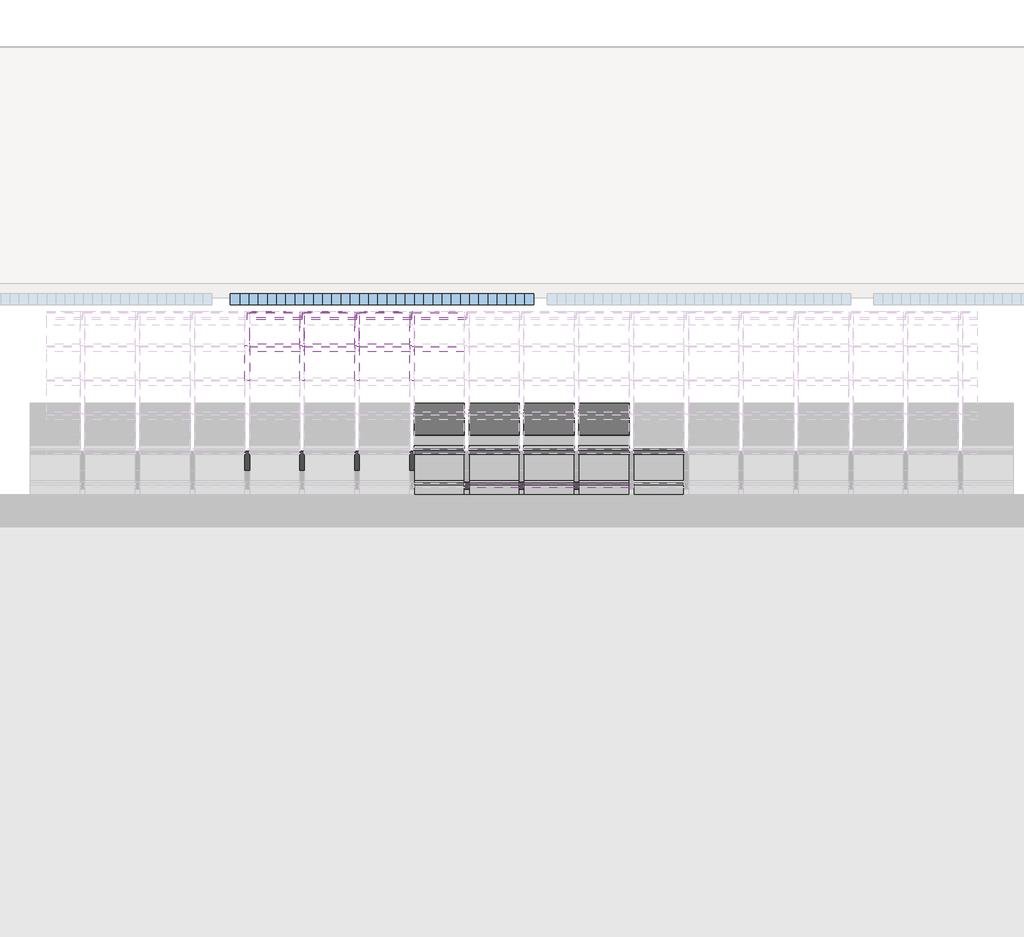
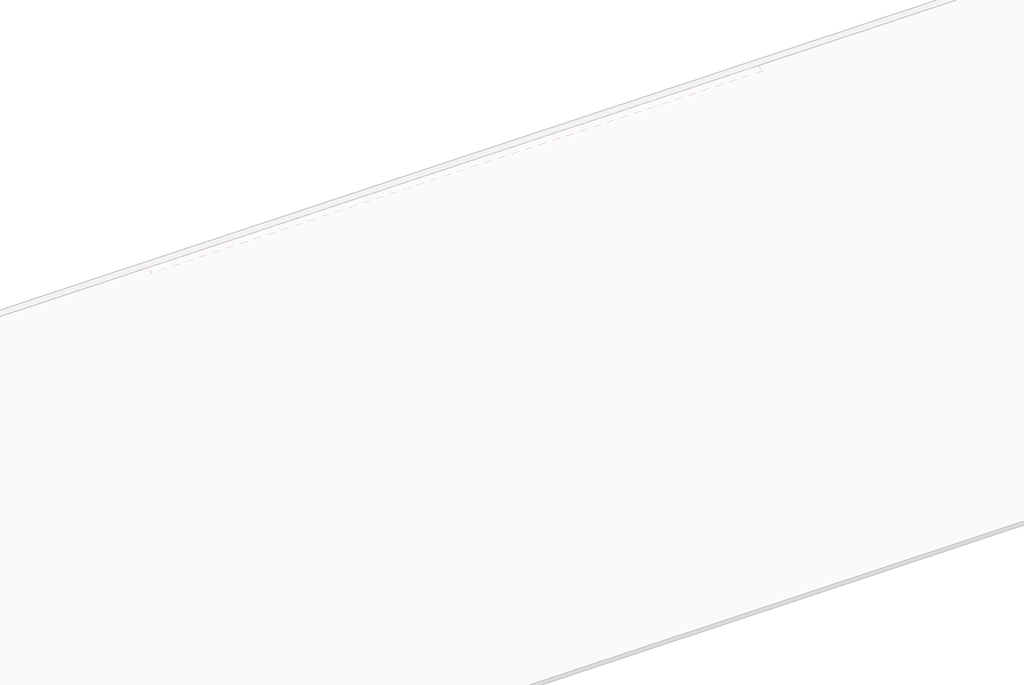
# One storey, part 21 of 57: 82 members, 38 plates, 1 window.
"""IFC4 building model written with IfcOpenShell, lengths in millimetres."""

from ifc_helpers import new_model, si_unit, origin, place, context, project, spatial, transform, mapped, element, save
from components import rectangular_mullion_4c4137b9, rectangular_mullion_59984080, rectangular_mullion_2d2423ea, rectangular_mullion_3ac3718c, rectangular_mullion_caibro_df98490b, rectangular_mullion_caibro_e4384bba, rectangular_mullion_caibro_0993a3cf, rectangular_mullion_caibro_9bd7bc61, rectangular_mullion_caibro_650698a1, empty_system_panel_vazio_178faf58, empty_system_panel_vazio_2c78850d, window_60306791, window_6c828501, window_02d14e1e

model = new_model("IFC4")

# Units and contexts
model_context = context("Model", 3, world=origin())
ifc_project = project(units=[si_unit("LENGTHUNIT", "METRE", prefix="MILLI")], contexts=[model_context])

# Site, building, storey
site = spatial("IfcSite", under=ifc_project)
building = spatial("IfcBuilding", under=site)
storey = spatial("IfcBuildingStorey", under=building, Name="Nível 2", Elevation=4100.0)

# Members
placement = place(None, origin())
rectangular_mullion_shape = rectangular_mullion_4c4137b9(model_context)
element("IfcMember", 1, ObjectType="Rectangular Mullion : Ripa", at=placement, inside=storey, context=model_context, shape_type="MappedRepresentation", body=[
    mapped(rectangular_mullion_shape, transform((10110.4472421, 15566.1284427, 5819.8877114), x_axis=(0.0, 0.9578262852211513, 0.2873478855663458), y_axis=(0.0, 0.2873478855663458, -0.9578262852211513), z_axis=(-1.0, 0.0, 0.0))),
])
element("IfcMember", 2, ObjectType="Rectangular Mullion : Ripa", at=placement, inside=storey, context=model_context, shape_type="MappedRepresentation", body=[
    mapped(rectangular_mullion_shape, transform((10707.5019985, 15566.1284427, 5819.8877114), x_axis=(0.0, 0.9578262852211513, 0.2873478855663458), y_axis=(0.0, 0.2873478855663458, -0.9578262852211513), z_axis=(-1.0, 0.0, 0.0))),
])
element("IfcMember", 3, ObjectType="Rectangular Mullion : Ripa", at=placement, inside=storey, context=model_context, shape_type="MappedRepresentation", body=[
    mapped(rectangular_mullion_shape, transform((11304.556755, 15566.1284427, 5819.8877114), x_axis=(0.0, 0.9578262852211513, 0.2873478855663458), y_axis=(0.0, 0.2873478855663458, -0.9578262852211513), z_axis=(-1.0, 0.0, 0.0))),
])
element("IfcMember", 4, ObjectType="Rectangular Mullion : Ripa", at=placement, inside=storey, context=model_context, shape_type="MappedRepresentation", body=[
    mapped(rectangular_mullion_shape, transform((11901.6115114, 15566.1284427, 5819.8877114), x_axis=(0.0, 0.9578262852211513, 0.2873478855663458), y_axis=(0.0, 0.2873478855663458, -0.9578262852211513), z_axis=(-1.0, 0.0, 0.0))),
])
rectangular_mullion_2_shape = rectangular_mullion_59984080(model_context)
element("IfcMember", 5, ObjectType="Rectangular Mullion : Ripa", at=placement, inside=storey, context=model_context, shape_type="MappedRepresentation", body=[
    mapped(rectangular_mullion_2_shape, transform((12523.6662678, 12234.5331147, 4820.409113), x_axis=(0.0, 0.9578262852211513, 0.2873478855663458), y_axis=(0.0, 0.2873478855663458, -0.9578262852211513), z_axis=(-1.0, 0.0, 0.0))),
])
element("IfcMember", 6, ObjectType="Rectangular Mullion : Ripa", at=placement, inside=storey, context=model_context, shape_type="MappedRepresentation", body=[
    mapped(rectangular_mullion_2_shape, transform((13120.7210242, 12234.5331147, 4820.409113), x_axis=(0.0, 0.9578262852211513, 0.2873478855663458), y_axis=(0.0, 0.2873478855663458, -0.9578262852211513), z_axis=(-1.0, 0.0, 0.0))),
])
element("IfcMember", 7, ObjectType="Rectangular Mullion : Ripa", at=placement, inside=storey, context=model_context, shape_type="MappedRepresentation", body=[
    mapped(rectangular_mullion_2_shape, transform((13717.7757807, 12234.5331147, 4820.409113), x_axis=(0.0, 0.9578262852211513, 0.2873478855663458), y_axis=(0.0, 0.2873478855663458, -0.9578262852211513), z_axis=(-1.0, 0.0, 0.0))),
])
element("IfcMember", 8, ObjectType="Rectangular Mullion : Ripa", at=placement, inside=storey, context=model_context, shape_type="MappedRepresentation", body=[
    mapped(rectangular_mullion_2_shape, transform((14314.8305371, 12234.5331147, 4820.409113), x_axis=(0.0, 0.9578262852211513, 0.2873478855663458), y_axis=(0.0, 0.2873478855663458, -0.9578262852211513), z_axis=(-1.0, 0.0, 0.0))),
])
element("IfcMember", 9, ObjectType="Rectangular Mullion : Ripa", at=placement, inside=storey, context=model_context, shape_type="MappedRepresentation", body=[
    mapped(rectangular_mullion_2_shape, transform((14911.8852935, 12234.5331147, 4820.409113), x_axis=(0.0, 0.9578262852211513, 0.2873478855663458), y_axis=(0.0, 0.2873478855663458, -0.9578262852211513), z_axis=(-1.0, 0.0, 0.0))),
])
element("IfcMember", 10, ObjectType="Rectangular Mullion : Ripa", at=placement, inside=storey, context=model_context, shape_type="MappedRepresentation", body=[
    mapped(rectangular_mullion_2_shape, transform((15508.9400499, 12234.5331147, 4820.409113), x_axis=(0.0, 0.9578262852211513, 0.2873478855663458), y_axis=(0.0, 0.2873478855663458, -0.9578262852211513), z_axis=(-1.0, 0.0, 0.0))),
])
element("IfcMember", 11, ObjectType="Rectangular Mullion : Ripa", at=placement, inside=storey, context=model_context, shape_type="MappedRepresentation", body=[
    mapped(rectangular_mullion_2_shape, transform((12523.6662678, 12604.7103734, 4931.4622906), x_axis=(0.0, 0.9578262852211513, 0.2873478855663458), y_axis=(0.0, 0.2873478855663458, -0.9578262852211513), z_axis=(-1.0, 0.0, 0.0))),
])
element("IfcMember", 12, ObjectType="Rectangular Mullion : Ripa", at=placement, inside=storey, context=model_context, shape_type="MappedRepresentation", body=[
    mapped(rectangular_mullion_2_shape, transform((13120.7210242, 12604.7103734, 4931.4622906), x_axis=(0.0, 0.9578262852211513, 0.2873478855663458), y_axis=(0.0, 0.2873478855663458, -0.9578262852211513), z_axis=(-1.0, 0.0, 0.0))),
])
element("IfcMember", 13, ObjectType="Rectangular Mullion : Ripa", at=placement, inside=storey, context=model_context, shape_type="MappedRepresentation", body=[
    mapped(rectangular_mullion_2_shape, transform((13717.7757807, 12604.7103734, 4931.4622906), x_axis=(0.0, 0.9578262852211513, 0.2873478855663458), y_axis=(0.0, 0.2873478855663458, -0.9578262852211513), z_axis=(-1.0, 0.0, 0.0))),
])
element("IfcMember", 14, ObjectType="Rectangular Mullion : Ripa", at=placement, inside=storey, context=model_context, shape_type="MappedRepresentation", body=[
    mapped(rectangular_mullion_2_shape, transform((14314.8305371, 12604.7103734, 4931.4622906), x_axis=(0.0, 0.9578262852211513, 0.2873478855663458), y_axis=(0.0, 0.2873478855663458, -0.9578262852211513), z_axis=(-1.0, 0.0, 0.0))),
])
element("IfcMember", 15, ObjectType="Rectangular Mullion : Ripa", at=placement, inside=storey, context=model_context, shape_type="MappedRepresentation", body=[
    mapped(rectangular_mullion_2_shape, transform((14911.8852935, 12604.7103734, 4931.4622906), x_axis=(0.0, 0.9578262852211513, 0.2873478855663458), y_axis=(0.0, 0.2873478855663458, -0.9578262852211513), z_axis=(-1.0, 0.0, 0.0))),
])
element("IfcMember", 16, ObjectType="Rectangular Mullion : Ripa", at=placement, inside=storey, context=model_context, shape_type="MappedRepresentation", body=[
    mapped(rectangular_mullion_2_shape, transform((15508.9400499, 12604.7103734, 4931.4622906), x_axis=(0.0, 0.9578262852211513, 0.2873478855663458), y_axis=(0.0, 0.2873478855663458, -0.9578262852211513), z_axis=(-1.0, 0.0, 0.0))),
])
element("IfcMember", 17, ObjectType="Rectangular Mullion : Ripa", at=placement, inside=storey, context=model_context, shape_type="MappedRepresentation", body=[
    mapped(rectangular_mullion_2_shape, transform((12523.6662678, 12974.8876321, 5042.5154682), x_axis=(0.0, 0.9578262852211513, 0.2873478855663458), y_axis=(0.0, 0.2873478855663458, -0.9578262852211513), z_axis=(-1.0, 0.0, 0.0))),
])
element("IfcMember", 18, ObjectType="Rectangular Mullion : Ripa", at=placement, inside=storey, context=model_context, shape_type="MappedRepresentation", body=[
    mapped(rectangular_mullion_2_shape, transform((13120.7210242, 12974.8876321, 5042.5154682), x_axis=(0.0, 0.9578262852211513, 0.2873478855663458), y_axis=(0.0, 0.2873478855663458, -0.9578262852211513), z_axis=(-1.0, 0.0, 0.0))),
])
element("IfcMember", 19, ObjectType="Rectangular Mullion : Ripa", at=placement, inside=storey, context=model_context, shape_type="MappedRepresentation", body=[
    mapped(rectangular_mullion_2_shape, transform((13717.7757807, 12974.8876321, 5042.5154682), x_axis=(0.0, 0.9578262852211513, 0.2873478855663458), y_axis=(0.0, 0.2873478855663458, -0.9578262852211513), z_axis=(-1.0, 0.0, 0.0))),
])
element("IfcMember", 20, ObjectType="Rectangular Mullion : Ripa", at=placement, inside=storey, context=model_context, shape_type="MappedRepresentation", body=[
    mapped(rectangular_mullion_2_shape, transform((14314.8305371, 12974.8876321, 5042.5154682), x_axis=(0.0, 0.9578262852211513, 0.2873478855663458), y_axis=(0.0, 0.2873478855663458, -0.9578262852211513), z_axis=(-1.0, 0.0, 0.0))),
])
element("IfcMember", 21, ObjectType="Rectangular Mullion : Ripa", at=placement, inside=storey, context=model_context, shape_type="MappedRepresentation", body=[
    mapped(rectangular_mullion_2_shape, transform((14911.8852935, 12974.8876321, 5042.5154682), x_axis=(0.0, 0.9578262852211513, 0.2873478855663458), y_axis=(0.0, 0.2873478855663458, -0.9578262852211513), z_axis=(-1.0, 0.0, 0.0))),
])
element("IfcMember", 22, ObjectType="Rectangular Mullion : Ripa", at=placement, inside=storey, context=model_context, shape_type="MappedRepresentation", body=[
    mapped(rectangular_mullion_2_shape, transform((15508.9400499, 12974.8876321, 5042.5154682), x_axis=(0.0, 0.9578262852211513, 0.2873478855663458), y_axis=(0.0, 0.2873478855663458, -0.9578262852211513), z_axis=(-1.0, 0.0, 0.0))),
])
element("IfcMember", 23, ObjectType="Rectangular Mullion : Ripa", at=placement, inside=storey, context=model_context, shape_type="MappedRepresentation", body=[
    mapped(rectangular_mullion_2_shape, transform((12523.6662678, 13345.0648907, 5153.5686458), x_axis=(0.0, 0.9578262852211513, 0.2873478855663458), y_axis=(0.0, 0.2873478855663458, -0.9578262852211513), z_axis=(-1.0, 0.0, 0.0))),
])
element("IfcMember", 24, ObjectType="Rectangular Mullion : Ripa", at=placement, inside=storey, context=model_context, shape_type="MappedRepresentation", body=[
    mapped(rectangular_mullion_2_shape, transform((13120.7210242, 13345.0648907, 5153.5686458), x_axis=(0.0, 0.9578262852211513, 0.2873478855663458), y_axis=(0.0, 0.2873478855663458, -0.9578262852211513), z_axis=(-1.0, 0.0, 0.0))),
])
element("IfcMember", 25, ObjectType="Rectangular Mullion : Ripa", at=placement, inside=storey, context=model_context, shape_type="MappedRepresentation", body=[
    mapped(rectangular_mullion_2_shape, transform((13717.7757807, 13345.0648907, 5153.5686458), x_axis=(0.0, 0.9578262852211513, 0.2873478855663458), y_axis=(0.0, 0.2873478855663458, -0.9578262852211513), z_axis=(-1.0, 0.0, 0.0))),
])
element("IfcMember", 26, ObjectType="Rectangular Mullion : Ripa", at=placement, inside=storey, context=model_context, shape_type="MappedRepresentation", body=[
    mapped(rectangular_mullion_2_shape, transform((12523.6662678, 13715.2421494, 5264.6218234), x_axis=(0.0, 0.9578262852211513, 0.2873478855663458), y_axis=(0.0, 0.2873478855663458, -0.9578262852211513), z_axis=(-1.0, 0.0, 0.0))),
])
element("IfcMember", 27, ObjectType="Rectangular Mullion : Ripa", at=placement, inside=storey, context=model_context, shape_type="MappedRepresentation", body=[
    mapped(rectangular_mullion_2_shape, transform((13120.7210242, 13715.2421494, 5264.6218234), x_axis=(0.0, 0.9578262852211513, 0.2873478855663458), y_axis=(0.0, 0.2873478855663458, -0.9578262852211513), z_axis=(-1.0, 0.0, 0.0))),
])
element("IfcMember", 28, ObjectType="Rectangular Mullion : Ripa", at=placement, inside=storey, context=model_context, shape_type="MappedRepresentation", body=[
    mapped(rectangular_mullion_2_shape, transform((13717.7757807, 13715.2421494, 5264.6218234), x_axis=(0.0, 0.9578262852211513, 0.2873478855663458), y_axis=(0.0, 0.2873478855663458, -0.9578262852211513), z_axis=(-1.0, 0.0, 0.0))),
])
element("IfcMember", 29, ObjectType="Rectangular Mullion : Ripa", at=placement, inside=storey, context=model_context, shape_type="MappedRepresentation", body=[
    mapped(rectangular_mullion_2_shape, transform((10135.4472421, 15195.9511841, 5708.8345338), x_axis=(0.0, 0.9578262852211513, 0.2873478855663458), y_axis=(0.0, 0.2873478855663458, -0.9578262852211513), z_axis=(-1.0, 0.0, 0.0))),
])
element("IfcMember", 30, ObjectType="Rectangular Mullion : Ripa", at=placement, inside=storey, context=model_context, shape_type="MappedRepresentation", body=[
    mapped(rectangular_mullion_2_shape, transform((10732.5019985, 15195.9511841, 5708.8345338), x_axis=(0.0, 0.9578262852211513, 0.2873478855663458), y_axis=(0.0, 0.2873478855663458, -0.9578262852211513), z_axis=(-1.0, 0.0, 0.0))),
])
element("IfcMember", 31, ObjectType="Rectangular Mullion : Ripa", at=placement, inside=storey, context=model_context, shape_type="MappedRepresentation", body=[
    mapped(rectangular_mullion_2_shape, transform((11329.556755, 15195.9511841, 5708.8345338), x_axis=(0.0, 0.9578262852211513, 0.2873478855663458), y_axis=(0.0, 0.2873478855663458, -0.9578262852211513), z_axis=(-1.0, 0.0, 0.0))),
])
element("IfcMember", 32, ObjectType="Rectangular Mullion : Ripa", at=placement, inside=storey, context=model_context, shape_type="MappedRepresentation", body=[
    mapped(rectangular_mullion_2_shape, transform((11926.6115114, 15195.9511841, 5708.8345338), x_axis=(0.0, 0.9578262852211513, 0.2873478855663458), y_axis=(0.0, 0.2873478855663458, -0.9578262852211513), z_axis=(-1.0, 0.0, 0.0))),
])
rectangular_mullion_3_shape = rectangular_mullion_2d2423ea(model_context)
element("IfcMember", 33, ObjectType="Rectangular Mullion : Terça", at=placement, inside=storey, context=model_context, shape_type="MappedRepresentation", body=[
    mapped(rectangular_mullion_3_shape, transform((12523.6662678, 13411.2689826, 5110.7880343), x_axis=(0.0, 0.9578262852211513, 0.2873478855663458), y_axis=(0.0, 0.2873478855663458, -0.9578262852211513), z_axis=(-1.0, 0.0, 0.0))),
])
element("IfcMember", 34, ObjectType="Rectangular Mullion : Terça", at=placement, inside=storey, context=model_context, shape_type="MappedRepresentation", body=[
    mapped(rectangular_mullion_3_shape, transform((13120.7210242, 13411.2689826, 5110.7880343), x_axis=(0.0, 0.9578262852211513, 0.2873478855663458), y_axis=(0.0, 0.2873478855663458, -0.9578262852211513), z_axis=(-1.0, 0.0, 0.0))),
])
element("IfcMember", 35, ObjectType="Rectangular Mullion : Terça", at=placement, inside=storey, context=model_context, shape_type="MappedRepresentation", body=[
    mapped(rectangular_mullion_3_shape, transform((13717.7757807, 13411.2689826, 5110.7880343), x_axis=(0.0, 0.9578262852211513, 0.2873478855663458), y_axis=(0.0, 0.2873478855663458, -0.9578262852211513), z_axis=(-1.0, 0.0, 0.0))),
])
rectangular_mullion_4_shape = rectangular_mullion_3ac3718c(model_context)
element("IfcMember", 36, ObjectType="Rectangular Mullion : Terça", at=placement, inside=storey, context=model_context, shape_type="MappedRepresentation", body=[
    mapped(rectangular_mullion_4_shape, transform((10110.4472421, 15566.1284427, 5757.2458723), x_axis=(0.0, 0.9578262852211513, 0.2873478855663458), y_axis=(0.0, 0.2873478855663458, -0.9578262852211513), z_axis=(-1.0, 0.0, 0.0))),
])
element("IfcMember", 37, ObjectType="Rectangular Mullion : Terça", at=placement, inside=storey, context=model_context, shape_type="MappedRepresentation", body=[
    mapped(rectangular_mullion_4_shape, transform((10707.5019985, 15566.1284427, 5757.2458723), x_axis=(0.0, 0.9578262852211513, 0.2873478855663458), y_axis=(0.0, 0.2873478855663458, -0.9578262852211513), z_axis=(-1.0, 0.0, 0.0))),
])
element("IfcMember", 38, ObjectType="Rectangular Mullion : Terça", at=placement, inside=storey, context=model_context, shape_type="MappedRepresentation", body=[
    mapped(rectangular_mullion_4_shape, transform((11304.556755, 15566.1284427, 5757.2458723), x_axis=(0.0, 0.9578262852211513, 0.2873478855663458), y_axis=(0.0, 0.2873478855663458, -0.9578262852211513), z_axis=(-1.0, 0.0, 0.0))),
])
element("IfcMember", 39, ObjectType="Rectangular Mullion : Terça", at=placement, inside=storey, context=model_context, shape_type="MappedRepresentation", body=[
    mapped(rectangular_mullion_4_shape, transform((11901.6115114, 15566.1284427, 5757.2458723), x_axis=(0.0, 0.9578262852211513, 0.2873478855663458), y_axis=(0.0, 0.2873478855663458, -0.9578262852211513), z_axis=(-1.0, 0.0, 0.0))),
])
rectangular_mullion_caibro_shape = rectangular_mullion_caibro_df98490b(model_context)
element("IfcMember", 40, ObjectType="Rectangular Mullion : Caibro", at=placement, inside=storey, context=model_context, shape_type="MappedRepresentation", body=[
    mapped(rectangular_mullion_caibro_shape, transform((10707.5019985, 15518.2371285, 5805.5203171), x_axis=(1.0, 0.0, 0.0), y_axis=(0.0, 0.28734788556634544, -0.9578262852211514), z_axis=(0.0, 0.9578262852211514, 0.28734788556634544))),
])
element("IfcMember", 41, ObjectType="Rectangular Mullion : Caibro", at=placement, inside=storey, context=model_context, shape_type="MappedRepresentation", body=[
    mapped(rectangular_mullion_caibro_shape, transform((11304.556755, 15518.2371285, 5805.5203171), x_axis=(1.0, 0.0, 0.0), y_axis=(0.0, 0.28734788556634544, -0.9578262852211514), z_axis=(0.0, 0.9578262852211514, 0.28734788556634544))),
])
element("IfcMember", 42, ObjectType="Rectangular Mullion : Caibro", at=placement, inside=storey, context=model_context, shape_type="MappedRepresentation", body=[
    mapped(rectangular_mullion_caibro_shape, transform((11901.6115114, 15518.2371285, 5805.5203171), x_axis=(1.0, 0.0, 0.0), y_axis=(0.0, 0.28734788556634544, -0.9578262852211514), z_axis=(0.0, 0.9578262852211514, 0.28734788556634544))),
])
rectangular_mullion_caibro_2_shape = rectangular_mullion_caibro_e4384bba(model_context)
element("IfcMember", 43, ObjectType="Rectangular Mullion : Caibro", at=placement, inside=storey, context=model_context, shape_type="MappedRepresentation", body=[
    mapped(rectangular_mullion_caibro_2_shape, transform((10110.4472421, 15195.9511841, 5708.8345338), x_axis=(1.0, 0.0, 0.0), y_axis=(0.0, 0.28734788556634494, -0.9578262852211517), z_axis=(0.0, 0.9578262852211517, 0.28734788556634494))),
])
element("IfcMember", 44, ObjectType="Rectangular Mullion : Caibro", at=placement, inside=storey, context=model_context, shape_type="MappedRepresentation", body=[
    mapped(rectangular_mullion_caibro_2_shape, transform((10707.5019985, 15195.9511841, 5708.8345338), x_axis=(1.0, 0.0, 0.0), y_axis=(0.0, 0.28734788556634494, -0.9578262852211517), z_axis=(0.0, 0.9578262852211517, 0.28734788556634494))),
])
element("IfcMember", 45, ObjectType="Rectangular Mullion : Caibro", at=placement, inside=storey, context=model_context, shape_type="MappedRepresentation", body=[
    mapped(rectangular_mullion_caibro_2_shape, transform((11304.556755, 15195.9511841, 5708.8345338), x_axis=(1.0, 0.0, 0.0), y_axis=(0.0, 0.28734788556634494, -0.9578262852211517), z_axis=(0.0, 0.9578262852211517, 0.28734788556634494))),
])
element("IfcMember", 46, ObjectType="Rectangular Mullion : Caibro", at=placement, inside=storey, context=model_context, shape_type="MappedRepresentation", body=[
    mapped(rectangular_mullion_caibro_2_shape, transform((11901.6115114, 15195.9511841, 5708.8345338), x_axis=(1.0, 0.0, 0.0), y_axis=(0.0, 0.28734788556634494, -0.9578262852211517), z_axis=(0.0, 0.9578262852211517, 0.28734788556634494))),
])
element("IfcMember", 47, ObjectType="Rectangular Mullion : Caibro", at=placement, inside=storey, context=model_context, shape_type="MappedRepresentation", body=[
    mapped(rectangular_mullion_caibro_2_shape, transform((12498.6662678, 12234.5331147, 4820.409113), x_axis=(1.0, 0.0, 0.0), y_axis=(0.0, 0.2873478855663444, -0.9578262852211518), z_axis=(0.0, 0.9578262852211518, 0.2873478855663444))),
])
element("IfcMember", 48, ObjectType="Rectangular Mullion : Caibro", at=placement, inside=storey, context=model_context, shape_type="MappedRepresentation", body=[
    mapped(rectangular_mullion_caibro_2_shape, transform((12498.6662678, 12604.7103734, 4931.4622906), x_axis=(1.0, 0.0, 0.0), y_axis=(0.0, 0.2873478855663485, -0.9578262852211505), z_axis=(0.0, 0.9578262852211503, 0.28734788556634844))),
])
element("IfcMember", 49, ObjectType="Rectangular Mullion : Caibro", at=placement, inside=storey, context=model_context, shape_type="MappedRepresentation", body=[
    mapped(rectangular_mullion_caibro_2_shape, transform((12498.6662678, 12974.8876321, 5042.5154682), x_axis=(1.0, 0.0, 0.0), y_axis=(0.0, 0.2873478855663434, -0.957826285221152), z_axis=(0.0, 0.957826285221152, 0.2873478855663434))),
])
element("IfcMember", 50, ObjectType="Rectangular Mullion : Caibro", at=placement, inside=storey, context=model_context, shape_type="MappedRepresentation", body=[
    mapped(rectangular_mullion_caibro_2_shape, transform((12498.6662678, 13345.0648907, 5153.5686458), x_axis=(1.0, 0.0, 0.0), y_axis=(0.0, 0.28734788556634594, -0.9578262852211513), z_axis=(0.0, 0.9578262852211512, 0.2873478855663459))),
])
element("IfcMember", 51, ObjectType="Rectangular Mullion : Caibro", at=placement, inside=storey, context=model_context, shape_type="MappedRepresentation", body=[
    mapped(rectangular_mullion_caibro_2_shape, transform((12498.6662678, 13715.2421494, 5264.6218234), x_axis=(1.0, 0.0, 0.0), y_axis=(0.0, 0.28734788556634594, -0.9578262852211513), z_axis=(0.0, 0.9578262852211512, 0.2873478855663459))),
])
element("IfcMember", 52, ObjectType="Rectangular Mullion : Caibro", at=placement, inside=storey, context=model_context, shape_type="MappedRepresentation", body=[
    mapped(rectangular_mullion_caibro_2_shape, transform((13095.7210242, 12234.5331147, 4820.409113), x_axis=(1.0, 0.0, 0.0), y_axis=(0.0, 0.2873478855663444, -0.9578262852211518), z_axis=(0.0, 0.9578262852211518, 0.2873478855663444))),
])
element("IfcMember", 53, ObjectType="Rectangular Mullion : Caibro", at=placement, inside=storey, context=model_context, shape_type="MappedRepresentation", body=[
    mapped(rectangular_mullion_caibro_2_shape, transform((13095.7210242, 12604.7103734, 4931.4622906), x_axis=(1.0, 0.0, 0.0), y_axis=(0.0, 0.2873478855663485, -0.9578262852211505), z_axis=(0.0, 0.9578262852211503, 0.28734788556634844))),
])
element("IfcMember", 54, ObjectType="Rectangular Mullion : Caibro", at=placement, inside=storey, context=model_context, shape_type="MappedRepresentation", body=[
    mapped(rectangular_mullion_caibro_2_shape, transform((13095.7210242, 12974.8876321, 5042.5154682), x_axis=(1.0, 0.0, 0.0), y_axis=(0.0, 0.2873478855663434, -0.957826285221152), z_axis=(0.0, 0.957826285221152, 0.2873478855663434))),
])
element("IfcMember", 55, ObjectType="Rectangular Mullion : Caibro", at=placement, inside=storey, context=model_context, shape_type="MappedRepresentation", body=[
    mapped(rectangular_mullion_caibro_2_shape, transform((13095.7210242, 13345.0648907, 5153.5686458), x_axis=(1.0, 0.0, 0.0), y_axis=(0.0, 0.28734788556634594, -0.9578262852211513), z_axis=(0.0, 0.9578262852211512, 0.2873478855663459))),
])
element("IfcMember", 56, ObjectType="Rectangular Mullion : Caibro", at=placement, inside=storey, context=model_context, shape_type="MappedRepresentation", body=[
    mapped(rectangular_mullion_caibro_2_shape, transform((13095.7210242, 13715.2421494, 5264.6218234), x_axis=(1.0, 0.0, 0.0), y_axis=(0.0, 0.28734788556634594, -0.9578262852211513), z_axis=(0.0, 0.9578262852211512, 0.2873478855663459))),
])
element("IfcMember", 57, ObjectType="Rectangular Mullion : Caibro", at=placement, inside=storey, context=model_context, shape_type="MappedRepresentation", body=[
    mapped(rectangular_mullion_caibro_2_shape, transform((13692.7757807, 12234.5331147, 4820.409113), x_axis=(1.0, 0.0, 0.0), y_axis=(0.0, 0.2873478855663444, -0.9578262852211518), z_axis=(0.0, 0.9578262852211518, 0.2873478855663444))),
])
element("IfcMember", 58, ObjectType="Rectangular Mullion : Caibro", at=placement, inside=storey, context=model_context, shape_type="MappedRepresentation", body=[
    mapped(rectangular_mullion_caibro_2_shape, transform((13692.7757807, 12604.7103734, 4931.4622906), x_axis=(1.0, 0.0, 0.0), y_axis=(0.0, 0.2873478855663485, -0.9578262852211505), z_axis=(0.0, 0.9578262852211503, 0.28734788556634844))),
])
element("IfcMember", 59, ObjectType="Rectangular Mullion : Caibro", at=placement, inside=storey, context=model_context, shape_type="MappedRepresentation", body=[
    mapped(rectangular_mullion_caibro_2_shape, transform((13692.7757807, 12974.8876321, 5042.5154682), x_axis=(1.0, 0.0, 0.0), y_axis=(0.0, 0.2873478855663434, -0.957826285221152), z_axis=(0.0, 0.957826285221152, 0.2873478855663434))),
])
element("IfcMember", 60, ObjectType="Rectangular Mullion : Caibro", at=placement, inside=storey, context=model_context, shape_type="MappedRepresentation", body=[
    mapped(rectangular_mullion_caibro_2_shape, transform((13692.7757807, 13345.0648907, 5153.5686458), x_axis=(1.0, 0.0, 0.0), y_axis=(0.0, 0.28734788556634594, -0.9578262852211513), z_axis=(0.0, 0.9578262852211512, 0.2873478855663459))),
])
element("IfcMember", 61, ObjectType="Rectangular Mullion : Caibro", at=placement, inside=storey, context=model_context, shape_type="MappedRepresentation", body=[
    mapped(rectangular_mullion_caibro_2_shape, transform((13692.7757807, 13715.2421494, 5264.6218234), x_axis=(1.0, 0.0, 0.0), y_axis=(0.0, 0.28734788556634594, -0.9578262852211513), z_axis=(0.0, 0.9578262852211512, 0.2873478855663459))),
])
element("IfcMember", 62, ObjectType="Rectangular Mullion : Caibro", at=placement, inside=storey, context=model_context, shape_type="MappedRepresentation", body=[
    mapped(rectangular_mullion_caibro_2_shape, transform((14289.8305371, 12234.5331147, 4820.409113), x_axis=(1.0, 0.0, 0.0), y_axis=(0.0, 0.2873478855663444, -0.9578262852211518), z_axis=(0.0, 0.9578262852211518, 0.2873478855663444))),
])
element("IfcMember", 63, ObjectType="Rectangular Mullion : Caibro", at=placement, inside=storey, context=model_context, shape_type="MappedRepresentation", body=[
    mapped(rectangular_mullion_caibro_2_shape, transform((14289.8305371, 12604.7103734, 4931.4622906), x_axis=(1.0, 0.0, 0.0), y_axis=(0.0, 0.2873478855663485, -0.9578262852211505), z_axis=(0.0, 0.9578262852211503, 0.28734788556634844))),
])
element("IfcMember", 64, ObjectType="Rectangular Mullion : Caibro", at=placement, inside=storey, context=model_context, shape_type="MappedRepresentation", body=[
    mapped(rectangular_mullion_caibro_2_shape, transform((14289.8305371, 12974.8876321, 5042.5154682), x_axis=(1.0, 0.0, 0.0), y_axis=(0.0, 0.2873478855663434, -0.957826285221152), z_axis=(0.0, 0.957826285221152, 0.2873478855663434))),
])
element("IfcMember", 65, ObjectType="Rectangular Mullion : Caibro", at=placement, inside=storey, context=model_context, shape_type="MappedRepresentation", body=[
    mapped(rectangular_mullion_caibro_2_shape, transform((14289.8305371, 13345.0648907, 5153.5686458), x_axis=(1.0, 0.0, 0.0), y_axis=(0.0, 0.28734788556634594, -0.9578262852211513), z_axis=(0.0, 0.9578262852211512, 0.2873478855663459))),
])
element("IfcMember", 66, ObjectType="Rectangular Mullion : Caibro", at=placement, inside=storey, context=model_context, shape_type="MappedRepresentation", body=[
    mapped(rectangular_mullion_caibro_2_shape, transform((14886.8852935, 12234.5331147, 4820.409113), x_axis=(1.0, 0.0, 0.0), y_axis=(0.0, 0.2873478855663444, -0.9578262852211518), z_axis=(0.0, 0.9578262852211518, 0.2873478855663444))),
])
element("IfcMember", 67, ObjectType="Rectangular Mullion : Caibro", at=placement, inside=storey, context=model_context, shape_type="MappedRepresentation", body=[
    mapped(rectangular_mullion_caibro_2_shape, transform((14886.8852935, 12604.7103734, 4931.4622906), x_axis=(1.0, 0.0, 0.0), y_axis=(0.0, 0.2873478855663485, -0.9578262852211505), z_axis=(0.0, 0.9578262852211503, 0.28734788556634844))),
])
element("IfcMember", 68, ObjectType="Rectangular Mullion : Caibro", at=placement, inside=storey, context=model_context, shape_type="MappedRepresentation", body=[
    mapped(rectangular_mullion_caibro_2_shape, transform((14886.8852935, 12974.8876321, 5042.5154682), x_axis=(1.0, 0.0, 0.0), y_axis=(0.0, 0.2873478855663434, -0.957826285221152), z_axis=(0.0, 0.957826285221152, 0.2873478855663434))),
])
element("IfcMember", 69, ObjectType="Rectangular Mullion : Caibro", at=placement, inside=storey, context=model_context, shape_type="MappedRepresentation", body=[
    mapped(rectangular_mullion_caibro_2_shape, transform((15483.9400499, 12234.5331147, 4820.409113), x_axis=(1.0, 0.0, 0.0), y_axis=(0.0, 0.2873478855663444, -0.9578262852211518), z_axis=(0.0, 0.9578262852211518, 0.2873478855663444))),
])
element("IfcMember", 70, ObjectType="Rectangular Mullion : Caibro", at=placement, inside=storey, context=model_context, shape_type="MappedRepresentation", body=[
    mapped(rectangular_mullion_caibro_2_shape, transform((15483.9400499, 12604.7103734, 4931.4622906), x_axis=(1.0, 0.0, 0.0), y_axis=(0.0, 0.2873478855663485, -0.9578262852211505), z_axis=(0.0, 0.9578262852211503, 0.28734788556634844))),
])
element("IfcMember", 71, ObjectType="Rectangular Mullion : Caibro", at=placement, inside=storey, context=model_context, shape_type="MappedRepresentation", body=[
    mapped(rectangular_mullion_caibro_2_shape, transform((15483.9400499, 12974.8876321, 5042.5154682), x_axis=(1.0, 0.0, 0.0), y_axis=(0.0, 0.2873478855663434, -0.957826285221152), z_axis=(0.0, 0.957826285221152, 0.2873478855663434))),
])
rectangular_mullion_caibro_3_shape = rectangular_mullion_caibro_0993a3cf(model_context)
element("IfcMember", 72, ObjectType="Rectangular Mullion : Caibro", at=placement, inside=storey, context=model_context, shape_type="MappedRepresentation", body=[
    mapped(rectangular_mullion_caibro_3_shape, transform((10110.4472421, 15508.6588656, 5740.0049992), x_axis=(1.0, 0.0, 0.0), y_axis=(0.0, 0.28734788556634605, -0.9578262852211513), z_axis=(0.0, 0.9578262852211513, 0.28734788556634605))),
])
element("IfcMember", 73, ObjectType="Rectangular Mullion : Caibro", at=placement, inside=storey, context=model_context, shape_type="MappedRepresentation", body=[
    mapped(rectangular_mullion_caibro_3_shape, transform((10707.5019985, 15508.6588656, 5740.0049992), x_axis=(1.0, 0.0, 0.0), y_axis=(0.0, 0.28734788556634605, -0.9578262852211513), z_axis=(0.0, 0.9578262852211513, 0.28734788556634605))),
])
element("IfcMember", 74, ObjectType="Rectangular Mullion : Caibro", at=placement, inside=storey, context=model_context, shape_type="MappedRepresentation", body=[
    mapped(rectangular_mullion_caibro_3_shape, transform((11304.556755, 15508.6588656, 5740.0049992), x_axis=(1.0, 0.0, 0.0), y_axis=(0.0, 0.28734788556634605, -0.9578262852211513), z_axis=(0.0, 0.9578262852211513, 0.28734788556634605))),
])
element("IfcMember", 75, ObjectType="Rectangular Mullion : Caibro", at=placement, inside=storey, context=model_context, shape_type="MappedRepresentation", body=[
    mapped(rectangular_mullion_caibro_3_shape, transform((11901.6115114, 15508.6588656, 5740.0049992), x_axis=(1.0, 0.0, 0.0), y_axis=(0.0, 0.28734788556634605, -0.9578262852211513), z_axis=(0.0, 0.9578262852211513, 0.28734788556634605))),
])
rectangular_mullion_caibro_4_shape = rectangular_mullion_caibro_9bd7bc61(model_context)
element("IfcMember", 76, ObjectType="Rectangular Mullion : Caibro", at=placement, inside=storey, context=model_context, shape_type="MappedRepresentation", body=[
    mapped(rectangular_mullion_caibro_4_shape, transform((12498.6662678, 13411.2689826, 5110.7880343), x_axis=(1.0, 0.0, 0.0), y_axis=(0.0, 0.2873478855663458, -0.9578262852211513), z_axis=(0.0, 0.9578262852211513, 0.2873478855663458))),
])
element("IfcMember", 77, ObjectType="Rectangular Mullion : Caibro", at=placement, inside=storey, context=model_context, shape_type="MappedRepresentation", body=[
    mapped(rectangular_mullion_caibro_4_shape, transform((13095.7210242, 13411.2689826, 5110.7880343), x_axis=(1.0, 0.0, 0.0), y_axis=(0.0, 0.2873478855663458, -0.9578262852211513), z_axis=(0.0, 0.9578262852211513, 0.2873478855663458))),
])
element("IfcMember", 78, ObjectType="Rectangular Mullion : Caibro", at=placement, inside=storey, context=model_context, shape_type="MappedRepresentation", body=[
    mapped(rectangular_mullion_caibro_4_shape, transform((13692.7757807, 13411.2689826, 5110.7880343), x_axis=(1.0, 0.0, 0.0), y_axis=(0.0, 0.2873478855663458, -0.9578262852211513), z_axis=(0.0, 0.9578262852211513, 0.2873478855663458))),
])
rectangular_mullion_caibro_5_shape = rectangular_mullion_caibro_650698a1(model_context)
element("IfcMember", 79, ObjectType="Rectangular Mullion : Caibro", at=placement, inside=storey, context=model_context, shape_type="MappedRepresentation", body=[
    mapped(rectangular_mullion_caibro_5_shape, transform((11886.7560778, 15772.0058221, 4410.7541277), x_axis=(-1.0, 0.0, 0.0), y_axis=(0.0, -0.28734788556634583, -0.9578262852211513), z_axis=(0.0, -0.9578262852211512, 0.2873478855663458))),
])
element("IfcMember", 80, ObjectType="Rectangular Mullion : Caibro", at=placement, inside=storey, context=model_context, shape_type="MappedRepresentation", body=[
    mapped(rectangular_mullion_caibro_5_shape, transform((11289.4075761, 15772.0058221, 4410.7541277), x_axis=(-1.0, 0.0, 0.0), y_axis=(0.0, -0.2873478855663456, -0.9578262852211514), z_axis=(0.0, -0.9578262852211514, 0.2873478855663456))),
])
element("IfcMember", 81, ObjectType="Rectangular Mullion : Caibro", at=placement, inside=storey, context=model_context, shape_type="MappedRepresentation", body=[
    mapped(rectangular_mullion_caibro_5_shape, transform((10692.0590744, 15772.0058221, 4410.7541277), x_axis=(-1.0, 0.0, 0.0), y_axis=(0.0, -0.2873478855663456, -0.9578262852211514), z_axis=(0.0, -0.9578262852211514, 0.2873478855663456))),
])
element("IfcMember", 82, ObjectType="Rectangular Mullion : Caibro", at=placement, inside=storey, context=model_context, shape_type="MappedRepresentation", body=[
    mapped(rectangular_mullion_caibro_5_shape, transform((10094.7105728, 15772.0058221, 4410.7541277), x_axis=(-1.0, 0.0, 0.0), y_axis=(0.0, -0.2873478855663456, -0.9578262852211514), z_axis=(0.0, -0.9578262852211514, 0.2873478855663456))),
])

# Plates
empty_system_panel_vazio_shape = empty_system_panel_vazio_178faf58(model_context)
element("IfcPlate", 83, ObjectType="Empty System Panel : Vazio", at=placement, inside=storey, context=model_context, shape_type="MappedRepresentation", body=[
    mapped(empty_system_panel_vazio_shape, transform((12200.1388896, 12234.5331147, 4820.409113), x_axis=(1.0, 0.0, 0.0), y_axis=(0.0, 0.2873478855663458, -0.9578262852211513), z_axis=(0.0, 0.9578262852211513, 0.2873478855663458))),
])
element("IfcPlate", 84, ObjectType="Empty System Panel : Vazio", at=placement, inside=storey, context=model_context, shape_type="MappedRepresentation", body=[
    mapped(empty_system_panel_vazio_shape, transform((12797.193646, 12234.5331147, 4820.409113), x_axis=(1.0, 0.0, 0.0), y_axis=(0.0, 0.2873478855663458, -0.9578262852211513), z_axis=(0.0, 0.9578262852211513, 0.2873478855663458))),
])
element("IfcPlate", 85, ObjectType="Empty System Panel : Vazio", at=placement, inside=storey, context=model_context, shape_type="MappedRepresentation", body=[
    mapped(empty_system_panel_vazio_shape, transform((13394.2484024, 12234.5331147, 4820.409113), x_axis=(1.0, 0.0, 0.0), y_axis=(0.0, 0.2873478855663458, -0.9578262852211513), z_axis=(0.0, 0.9578262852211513, 0.2873478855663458))),
])
element("IfcPlate", 86, ObjectType="Empty System Panel : Vazio", at=placement, inside=storey, context=model_context, shape_type="MappedRepresentation", body=[
    mapped(empty_system_panel_vazio_shape, transform((13991.3031589, 12234.5331147, 4820.409113), x_axis=(1.0, 0.0, 0.0), y_axis=(0.0, 0.2873478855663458, -0.9578262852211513), z_axis=(0.0, 0.9578262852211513, 0.2873478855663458))),
])
element("IfcPlate", 87, ObjectType="Empty System Panel : Vazio", at=placement, inside=storey, context=model_context, shape_type="MappedRepresentation", body=[
    mapped(empty_system_panel_vazio_shape, transform((14588.3579153, 12234.5331147, 4820.409113), x_axis=(1.0, 0.0, 0.0), y_axis=(0.0, 0.2873478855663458, -0.9578262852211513), z_axis=(0.0, 0.9578262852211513, 0.2873478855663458))),
])
element("IfcPlate", 88, ObjectType="Empty System Panel : Vazio", at=placement, inside=storey, context=model_context, shape_type="MappedRepresentation", body=[
    mapped(empty_system_panel_vazio_shape, transform((15185.4126717, 12234.5331147, 4820.409113), x_axis=(1.0, 0.0, 0.0), y_axis=(0.0, 0.2873478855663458, -0.9578262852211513), z_axis=(0.0, 0.9578262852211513, 0.2873478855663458))),
])
element("IfcPlate", 89, ObjectType="Empty System Panel : Vazio", at=placement, inside=storey, context=model_context, shape_type="MappedRepresentation", body=[
    mapped(empty_system_panel_vazio_shape, transform((15782.4674281, 12234.5331147, 4820.409113), x_axis=(1.0, 0.0, 0.0), y_axis=(0.0, 0.2873478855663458, -0.9578262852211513), z_axis=(0.0, 0.9578262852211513, 0.2873478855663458))),
])
element("IfcPlate", 90, ObjectType="Empty System Panel : Vazio", at=placement, inside=storey, context=model_context, shape_type="MappedRepresentation", body=[
    mapped(empty_system_panel_vazio_shape, transform((12200.1388896, 12604.7103734, 4931.4622906), x_axis=(1.0, 0.0, 0.0), y_axis=(0.0, 0.2873478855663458, -0.9578262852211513), z_axis=(0.0, 0.9578262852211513, 0.2873478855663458))),
])
element("IfcPlate", 91, ObjectType="Empty System Panel : Vazio", at=placement, inside=storey, context=model_context, shape_type="MappedRepresentation", body=[
    mapped(empty_system_panel_vazio_shape, transform((12797.193646, 12604.7103734, 4931.4622906), x_axis=(1.0, 0.0, 0.0), y_axis=(0.0, 0.2873478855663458, -0.9578262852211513), z_axis=(0.0, 0.9578262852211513, 0.2873478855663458))),
])
element("IfcPlate", 92, ObjectType="Empty System Panel : Vazio", at=placement, inside=storey, context=model_context, shape_type="MappedRepresentation", body=[
    mapped(empty_system_panel_vazio_shape, transform((13394.2484024, 12604.7103734, 4931.4622906), x_axis=(1.0, 0.0, 0.0), y_axis=(0.0, 0.2873478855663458, -0.9578262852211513), z_axis=(0.0, 0.9578262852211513, 0.2873478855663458))),
])
element("IfcPlate", 93, ObjectType="Empty System Panel : Vazio", at=placement, inside=storey, context=model_context, shape_type="MappedRepresentation", body=[
    mapped(empty_system_panel_vazio_shape, transform((13991.3031589, 12604.7103734, 4931.4622906), x_axis=(1.0, 0.0, 0.0), y_axis=(0.0, 0.2873478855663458, -0.9578262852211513), z_axis=(0.0, 0.9578262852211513, 0.2873478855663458))),
])
element("IfcPlate", 94, ObjectType="Empty System Panel : Vazio", at=placement, inside=storey, context=model_context, shape_type="MappedRepresentation", body=[
    mapped(empty_system_panel_vazio_shape, transform((14588.3579153, 12604.7103734, 4931.4622906), x_axis=(1.0, 0.0, 0.0), y_axis=(0.0, 0.2873478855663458, -0.9578262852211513), z_axis=(0.0, 0.9578262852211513, 0.2873478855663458))),
])
element("IfcPlate", 95, ObjectType="Empty System Panel : Vazio", at=placement, inside=storey, context=model_context, shape_type="MappedRepresentation", body=[
    mapped(empty_system_panel_vazio_shape, transform((15185.4126717, 12604.7103734, 4931.4622906), x_axis=(1.0, 0.0, 0.0), y_axis=(0.0, 0.2873478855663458, -0.9578262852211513), z_axis=(0.0, 0.9578262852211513, 0.2873478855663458))),
])
element("IfcPlate", 96, ObjectType="Empty System Panel : Vazio", at=placement, inside=storey, context=model_context, shape_type="MappedRepresentation", body=[
    mapped(empty_system_panel_vazio_shape, transform((15782.4674281, 12604.7103734, 4931.4622906), x_axis=(1.0, 0.0, 0.0), y_axis=(0.0, 0.2873478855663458, -0.9578262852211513), z_axis=(0.0, 0.9578262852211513, 0.2873478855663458))),
])
element("IfcPlate", 97, ObjectType="Empty System Panel : Vazio", at=placement, inside=storey, context=model_context, shape_type="MappedRepresentation", body=[
    mapped(empty_system_panel_vazio_shape, transform((12200.1388896, 12974.8876321, 5042.5154682), x_axis=(1.0, 0.0, 0.0), y_axis=(0.0, 0.2873478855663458, -0.9578262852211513), z_axis=(0.0, 0.9578262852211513, 0.2873478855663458))),
])
element("IfcPlate", 98, ObjectType="Empty System Panel : Vazio", at=placement, inside=storey, context=model_context, shape_type="MappedRepresentation", body=[
    mapped(empty_system_panel_vazio_shape, transform((12797.193646, 12974.8876321, 5042.5154682), x_axis=(1.0, 0.0, 0.0), y_axis=(0.0, 0.2873478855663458, -0.9578262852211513), z_axis=(0.0, 0.9578262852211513, 0.2873478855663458))),
])
element("IfcPlate", 99, ObjectType="Empty System Panel : Vazio", at=placement, inside=storey, context=model_context, shape_type="MappedRepresentation", body=[
    mapped(empty_system_panel_vazio_shape, transform((13394.2484024, 12974.8876321, 5042.5154682), x_axis=(1.0, 0.0, 0.0), y_axis=(0.0, 0.2873478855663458, -0.9578262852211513), z_axis=(0.0, 0.9578262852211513, 0.2873478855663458))),
])
element("IfcPlate", 100, ObjectType="Empty System Panel : Vazio", at=placement, inside=storey, context=model_context, shape_type="MappedRepresentation", body=[
    mapped(empty_system_panel_vazio_shape, transform((13991.3031589, 12974.8876321, 5042.5154682), x_axis=(1.0, 0.0, 0.0), y_axis=(0.0, 0.2873478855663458, -0.9578262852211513), z_axis=(0.0, 0.9578262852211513, 0.2873478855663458))),
])
element("IfcPlate", 101, ObjectType="Empty System Panel : Vazio", at=placement, inside=storey, context=model_context, shape_type="MappedRepresentation", body=[
    mapped(empty_system_panel_vazio_shape, transform((14588.3579153, 12974.8876321, 5042.5154682), x_axis=(1.0, 0.0, 0.0), y_axis=(0.0, 0.2873478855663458, -0.9578262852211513), z_axis=(0.0, 0.9578262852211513, 0.2873478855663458))),
])
element("IfcPlate", 102, ObjectType="Empty System Panel : Vazio", at=placement, inside=storey, context=model_context, shape_type="MappedRepresentation", body=[
    mapped(empty_system_panel_vazio_shape, transform((15185.4126717, 12974.8876321, 5042.5154682), x_axis=(1.0, 0.0, 0.0), y_axis=(0.0, 0.2873478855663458, -0.9578262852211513), z_axis=(0.0, 0.9578262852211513, 0.2873478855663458))),
])
element("IfcPlate", 103, ObjectType="Empty System Panel : Vazio", at=placement, inside=storey, context=model_context, shape_type="MappedRepresentation", body=[
    mapped(empty_system_panel_vazio_shape, transform((15782.4674281, 12974.8876321, 5042.5154682), x_axis=(1.0, 0.0, 0.0), y_axis=(0.0, 0.2873478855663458, -0.9578262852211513), z_axis=(0.0, 0.9578262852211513, 0.2873478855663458))),
])
element("IfcPlate", 104, ObjectType="Empty System Panel : Vazio", at=placement, inside=storey, context=model_context, shape_type="MappedRepresentation", body=[
    mapped(empty_system_panel_vazio_shape, transform((12200.1388896, 13345.0648907, 5153.5686458), x_axis=(1.0, 0.0, 0.0), y_axis=(0.0, 0.2873478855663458, -0.9578262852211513), z_axis=(0.0, 0.9578262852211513, 0.2873478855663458))),
])
element("IfcPlate", 105, ObjectType="Empty System Panel : Vazio", at=placement, inside=storey, context=model_context, shape_type="MappedRepresentation", body=[
    mapped(empty_system_panel_vazio_shape, transform((12797.193646, 13345.0648907, 5153.5686458), x_axis=(1.0, 0.0, 0.0), y_axis=(0.0, 0.2873478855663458, -0.9578262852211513), z_axis=(0.0, 0.9578262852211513, 0.2873478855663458))),
])
element("IfcPlate", 106, ObjectType="Empty System Panel : Vazio", at=placement, inside=storey, context=model_context, shape_type="MappedRepresentation", body=[
    mapped(empty_system_panel_vazio_shape, transform((13394.2484024, 13345.0648907, 5153.5686458), x_axis=(1.0, 0.0, 0.0), y_axis=(0.0, 0.2873478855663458, -0.9578262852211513), z_axis=(0.0, 0.9578262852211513, 0.2873478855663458))),
])
element("IfcPlate", 107, ObjectType="Empty System Panel : Vazio", at=placement, inside=storey, context=model_context, shape_type="MappedRepresentation", body=[
    mapped(empty_system_panel_vazio_shape, transform((13991.3031589, 13345.0648907, 5153.5686458), x_axis=(1.0, 0.0, 0.0), y_axis=(0.0, 0.2873478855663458, -0.9578262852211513), z_axis=(0.0, 0.9578262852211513, 0.2873478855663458))),
])
element("IfcPlate", 108, ObjectType="Empty System Panel : Vazio", at=placement, inside=storey, context=model_context, shape_type="MappedRepresentation", body=[
    mapped(empty_system_panel_vazio_shape, transform((14588.3579153, 13345.0648907, 5153.5686458), x_axis=(1.0, 0.0, 0.0), y_axis=(0.0, 0.2873478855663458, -0.9578262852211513), z_axis=(0.0, 0.9578262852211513, 0.2873478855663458))),
])
element("IfcPlate", 109, ObjectType="Empty System Panel : Vazio", at=placement, inside=storey, context=model_context, shape_type="MappedRepresentation", body=[
    mapped(empty_system_panel_vazio_shape, transform((12200.1388896, 13715.2421494, 5264.6218234), x_axis=(1.0, 0.0, 0.0), y_axis=(0.0, 0.2873478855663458, -0.9578262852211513), z_axis=(0.0, 0.9578262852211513, 0.2873478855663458))),
])
element("IfcPlate", 110, ObjectType="Empty System Panel : Vazio", at=placement, inside=storey, context=model_context, shape_type="MappedRepresentation", body=[
    mapped(empty_system_panel_vazio_shape, transform((12797.193646, 13715.2421494, 5264.6218234), x_axis=(1.0, 0.0, 0.0), y_axis=(0.0, 0.2873478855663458, -0.9578262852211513), z_axis=(0.0, 0.9578262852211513, 0.2873478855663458))),
])
element("IfcPlate", 111, ObjectType="Empty System Panel : Vazio", at=placement, inside=storey, context=model_context, shape_type="MappedRepresentation", body=[
    mapped(empty_system_panel_vazio_shape, transform((13394.2484024, 13715.2421494, 5264.6218234), x_axis=(1.0, 0.0, 0.0), y_axis=(0.0, 0.2873478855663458, -0.9578262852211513), z_axis=(0.0, 0.9578262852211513, 0.2873478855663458))),
])
element("IfcPlate", 112, ObjectType="Empty System Panel : Vazio", at=placement, inside=storey, context=model_context, shape_type="MappedRepresentation", body=[
    mapped(empty_system_panel_vazio_shape, transform((13991.3031589, 13715.2421494, 5264.6218234), x_axis=(1.0, 0.0, 0.0), y_axis=(0.0, 0.2873478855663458, -0.9578262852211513), z_axis=(0.0, 0.9578262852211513, 0.2873478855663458))),
])
element("IfcPlate", 113, ObjectType="Empty System Panel : Vazio", at=placement, inside=storey, context=model_context, shape_type="MappedRepresentation", body=[
    mapped(empty_system_panel_vazio_shape, transform((14588.3579153, 13715.2421494, 5264.6218234), x_axis=(1.0, 0.0, 0.0), y_axis=(0.0, 0.2873478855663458, -0.9578262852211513), z_axis=(0.0, 0.9578262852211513, 0.2873478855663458))),
])
element("IfcPlate", 114, ObjectType="Empty System Panel : Vazio", at=placement, inside=storey, context=model_context, shape_type="MappedRepresentation", body=[
    mapped(empty_system_panel_vazio_shape, transform((10408.9746203, 15195.9511841, 5708.8345338), x_axis=(1.0, 0.0, 0.0), y_axis=(0.0, 0.2873478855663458, -0.9578262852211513), z_axis=(0.0, 0.9578262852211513, 0.2873478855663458))),
])
element("IfcPlate", 115, ObjectType="Empty System Panel : Vazio", at=placement, inside=storey, context=model_context, shape_type="MappedRepresentation", body=[
    mapped(empty_system_panel_vazio_shape, transform((11006.0293767, 15195.9511841, 5708.8345338), x_axis=(1.0, 0.0, 0.0), y_axis=(0.0, 0.2873478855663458, -0.9578262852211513), z_axis=(0.0, 0.9578262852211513, 0.2873478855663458))),
])
element("IfcPlate", 116, ObjectType="Empty System Panel : Vazio", at=placement, inside=storey, context=model_context, shape_type="MappedRepresentation", body=[
    mapped(empty_system_panel_vazio_shape, transform((11603.0841332, 15195.9511841, 5708.8345338), x_axis=(1.0, 0.0, 0.0), y_axis=(0.0, 0.2873478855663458, -0.9578262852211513), z_axis=(0.0, 0.9578262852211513, 0.2873478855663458))),
])
empty_system_panel_vazio_2_shape = empty_system_panel_vazio_2c78850d(model_context)
element("IfcPlate", 117, ObjectType="Empty System Panel : Vazio", at=placement, inside=storey, context=model_context, shape_type="MappedRepresentation", body=[
    mapped(empty_system_panel_vazio_2_shape, transform((12200.1388896, 13440.0037711, 5119.4084708), x_axis=(1.0, 0.0, 0.0), y_axis=(0.0, 0.2873478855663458, -0.9578262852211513), z_axis=(0.0, 0.9578262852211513, 0.2873478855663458))),
])
element("IfcPlate", 118, ObjectType="Empty System Panel : Vazio", at=placement, inside=storey, context=model_context, shape_type="MappedRepresentation", body=[
    mapped(empty_system_panel_vazio_2_shape, transform((12797.193646, 13440.0037711, 5119.4084708), x_axis=(1.0, 0.0, 0.0), y_axis=(0.0, 0.2873478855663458, -0.9578262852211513), z_axis=(0.0, 0.9578262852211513, 0.2873478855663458))),
])
element("IfcPlate", 119, ObjectType="Empty System Panel : Vazio", at=placement, inside=storey, context=model_context, shape_type="MappedRepresentation", body=[
    mapped(empty_system_panel_vazio_2_shape, transform((13394.2484024, 13440.0037711, 5119.4084708), x_axis=(1.0, 0.0, 0.0), y_axis=(0.0, 0.2873478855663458, -0.9578262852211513), z_axis=(0.0, 0.9578262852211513, 0.2873478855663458))),
])
element("IfcPlate", 120, ObjectType="Empty System Panel : Vazio", at=placement, inside=storey, context=model_context, shape_type="MappedRepresentation", body=[
    mapped(empty_system_panel_vazio_2_shape, transform((13991.3031589, 13440.0037711, 5119.4084708), x_axis=(1.0, 0.0, 0.0), y_axis=(0.0, 0.2873478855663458, -0.9578262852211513), z_axis=(0.0, 0.9578262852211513, 0.2873478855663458))),
])

# Window
window_shape = window_60306791(model_context)
window_2_shape = window_6c828501(model_context)
window_3_shape = window_02d14e1e(model_context)
element("IfcWindow", 121, ObjectType="Concrete_Cobog_Hollow_block_14694 : Cobogó 3,25 x 0,80 m", at=placement, inside=storey, context=model_context, shape_type="MappedRepresentation", body=[
    mapped(window_shape, transform((11576.528714, 15697.0058221, 3500.0), x_axis=(-1.0, 0.0, 0.0), y_axis=(0.0, -1.0, 0.0), z_axis=(0.0, 0.0, 1.0))),
    mapped(window_2_shape, transform((11576.528714, 15697.0058221, 3500.0), x_axis=(-1.0, 0.0, 0.0), y_axis=(0.0, -1.0, 0.0), z_axis=(0.0, 0.0, 1.0))),
    mapped(window_3_shape, transform((11576.528714, 15697.0058221, 3500.0), x_axis=(-1.0, 0.0, 0.0), y_axis=(0.0, -1.0, 0.0), z_axis=(0.0, 0.0, 1.0))),
])

save(model, "model.ifc")
